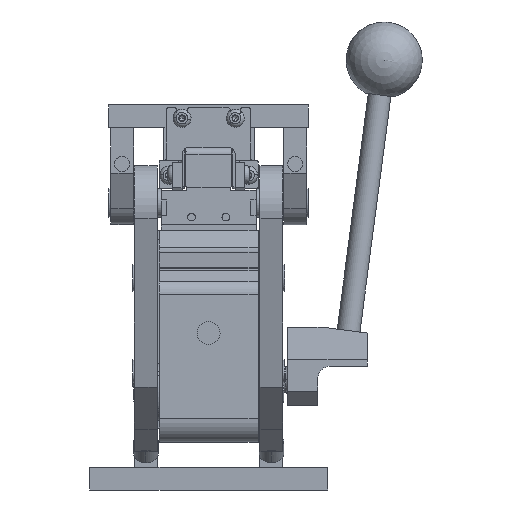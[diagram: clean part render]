
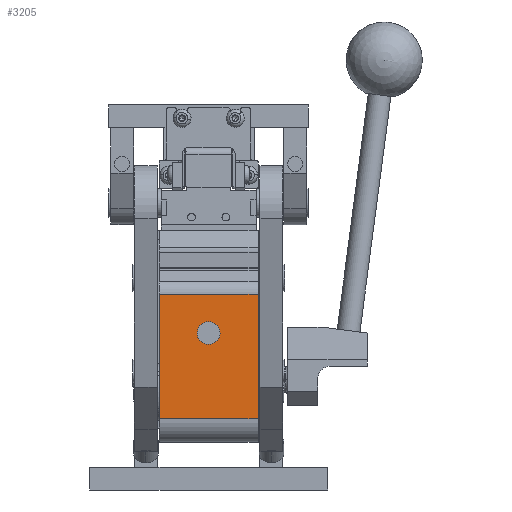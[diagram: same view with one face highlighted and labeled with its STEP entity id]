
A CAD part, left-side view. The second image highlights one B-rep face of the part: STEP entity #3205.
In plain terms, the highlighted planar face has unit normal (-1, 0, 0) as drawn and (0, 1, 0) by its records, which use the part's own axes.
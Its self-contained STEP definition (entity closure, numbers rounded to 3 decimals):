
#122 = EDGE_LOOP ( 'NONE', ( #57610, #42277, #47718, #4605 ) ) ;
#136 = ORIENTED_EDGE ( 'NONE', *, *, #4804, .F. ) ;
#880 = EDGE_LOOP ( 'NONE', ( #136, #46985 ) ) ;
#1924 = EDGE_CURVE ( 'NONE', #11560, #20323, #12191, .T. ) ;
#2618 = CARTESIAN_POINT ( 'NONE',  ( -14., 51.5, 26. ) ) ;
#3205 = ADVANCED_FACE ( 'NONE', ( #3650, #8367 ), #47034, .F. ) ;
#3650 = FACE_BOUND ( 'NONE', #880, .T. ) ;
#4102 = AXIS2_PLACEMENT_3D ( 'NONE', #47490, #13281, #51897 ) ;
#4605 = ORIENTED_EDGE ( 'NONE', *, *, #10153, .T. ) ;
#4804 = EDGE_CURVE ( 'NONE', #20323, #11560, #24982, .T. ) ;
#8367 = FACE_OUTER_BOUND ( 'NONE', #122, .T. ) ;
#9927 = DIRECTION ( 'NONE',  ( -1., 0., 0. ) ) ;
#10153 = EDGE_CURVE ( 'NONE', #29186, #35556, #15931, .T. ) ;
#11535 = DIRECTION ( 'NONE',  ( 0., 0., -1. ) ) ;
#11560 = VERTEX_POINT ( 'NONE', #40517 ) ;
#12167 = LINE ( 'NONE', #31437, #43443 ) ;
#12191 = CIRCLE ( 'NONE', #4102, 4. ) ;
#13281 = DIRECTION ( 'NONE',  ( 0., 1., 0. ) ) ;
#14654 = DIRECTION ( 'NONE',  ( 0., 0., -1. ) ) ;
#15256 = LINE ( 'NONE', #19414, #61913 ) ;
#15931 = LINE ( 'NONE', #59677, #61191 ) ;
#15948 = DIRECTION ( 'NONE',  ( 0., 0., -1. ) ) ;
#18809 = CARTESIAN_POINT ( 'NONE',  ( -14., 51.5, -26. ) ) ;
#18884 = AXIS2_PLACEMENT_3D ( 'NONE', #58084, #48893, #14654 ) ;
#19126 = DIRECTION ( 'NONE',  ( 0., -1., 0. ) ) ;
#19414 = CARTESIAN_POINT ( 'NONE',  ( -14., 51.5, 26. ) ) ;
#19633 = VERTEX_POINT ( 'NONE', #2618 ) ;
#20323 = VERTEX_POINT ( 'NONE', #24792 ) ;
#24792 = CARTESIAN_POINT ( 'NONE',  ( 31., 51.5, -4. ) ) ;
#24982 = CIRCLE ( 'NONE', #18884, 4. ) ;
#25201 = EDGE_CURVE ( 'NONE', #19633, #31350, #26094, .T. ) ;
#26094 = LINE ( 'NONE', #30540, #40386 ) ;
#29186 = VERTEX_POINT ( 'NONE', #51460 ) ;
#29845 = CARTESIAN_POINT ( 'NONE',  ( 51.4, 51.5, -26. ) ) ;
#30540 = CARTESIAN_POINT ( 'NONE',  ( -14., 51.5, 27. ) ) ;
#31350 = VERTEX_POINT ( 'NONE', #18809 ) ;
#31437 = CARTESIAN_POINT ( 'NONE',  ( -14., 51.5, -26. ) ) ;
#32102 = DIRECTION ( 'NONE',  ( 0., 0., -1. ) ) ;
#33479 = EDGE_CURVE ( 'NONE', #31350, #35556, #12167, .T. ) ;
#35556 = VERTEX_POINT ( 'NONE', #29845 ) ;
#40386 = VECTOR ( 'NONE', #15948, 1000. ) ;
#40517 = CARTESIAN_POINT ( 'NONE',  ( 31., 51.5, 4. ) ) ;
#40961 = DIRECTION ( 'NONE',  ( 1., 0., 0. ) ) ;
#41012 = EDGE_CURVE ( 'NONE', #29186, #19633, #15256, .T. ) ;
#42277 = ORIENTED_EDGE ( 'NONE', *, *, #25201, .F. ) ;
#43443 = VECTOR ( 'NONE', #40961, 1000. ) ;
#46985 = ORIENTED_EDGE ( 'NONE', *, *, #1924, .F. ) ;
#47034 = PLANE ( 'NONE',  #61964 ) ;
#47490 = CARTESIAN_POINT ( 'NONE',  ( 31., 51.5, 0. ) ) ;
#47718 = ORIENTED_EDGE ( 'NONE', *, *, #41012, .F. ) ;
#48893 = DIRECTION ( 'NONE',  ( 0., 1., 0. ) ) ;
#51460 = CARTESIAN_POINT ( 'NONE',  ( 51.4, 51.5, 26. ) ) ;
#51897 = DIRECTION ( 'NONE',  ( 0., 0., -1. ) ) ;
#57481 = CARTESIAN_POINT ( 'NONE',  ( -14., 51.5, 27. ) ) ;
#57610 = ORIENTED_EDGE ( 'NONE', *, *, #33479, .F. ) ;
#58084 = CARTESIAN_POINT ( 'NONE',  ( 31., 51.5, 0. ) ) ;
#59677 = CARTESIAN_POINT ( 'NONE',  ( 51.4, 51.5, 27. ) ) ;
#61191 = VECTOR ( 'NONE', #11535, 1000. ) ;
#61913 = VECTOR ( 'NONE', #9927, 1000. ) ;
#61964 = AXIS2_PLACEMENT_3D ( 'NONE', #57481, #19126, #32102 ) ;
